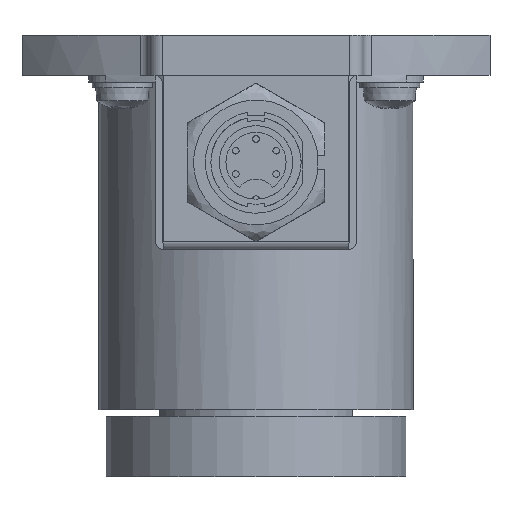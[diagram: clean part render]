
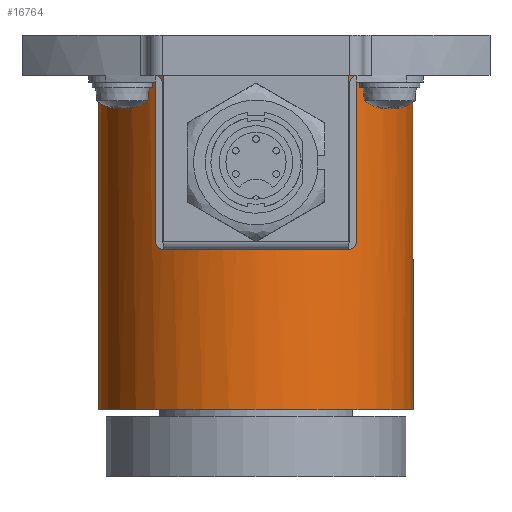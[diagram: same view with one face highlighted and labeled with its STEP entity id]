
A CAD part, left-side view. The second image highlights one B-rep face of the part: STEP entity #16764.
In plain terms, the highlighted cylindrical face has radius 23.5 mm (diameter 47 mm), a full revolution.
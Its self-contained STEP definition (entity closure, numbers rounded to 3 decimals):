
#10004=CARTESIAN_POINT('',(-23.415,2.,0.));
#10005=VERTEX_POINT('',#10004);
#10063=CARTESIAN_POINT('',(-23.415,2.,-1.));
#10064=VERTEX_POINT('',#10063);
#10065=CARTESIAN_POINT('',(-23.415,2.,-1.));
#10066=CARTESIAN_POINT('',(-23.407,2.092,-1.));
#10067=CARTESIAN_POINT('',(-23.398,2.193,-0.971));
#10068=CARTESIAN_POINT('',(-23.39,2.274,-0.918));
#10069=CARTESIAN_POINT('',(-23.383,2.345,-0.872));
#10070=CARTESIAN_POINT('',(-23.377,2.4,-0.811));
#10071=CARTESIAN_POINT('',(-23.373,2.441,-0.736));
#10072=CARTESIAN_POINT('',(-23.369,2.479,-0.665));
#10073=CARTESIAN_POINT('',(-23.367,2.499,-0.584));
#10074=CARTESIAN_POINT('',(-23.367,2.5,-0.507));
#10075=CARTESIAN_POINT('',(-23.367,2.501,-0.432));
#10076=CARTESIAN_POINT('',(-23.368,2.484,-0.352));
#10077=CARTESIAN_POINT('',(-23.372,2.449,-0.28));
#10078=CARTESIAN_POINT('',(-23.377,2.398,-0.175));
#10079=CARTESIAN_POINT('',(-23.386,2.314,-0.094));
#10080=CARTESIAN_POINT('',(-23.396,2.208,-0.045));
#10081=CARTESIAN_POINT('',(-23.402,2.142,-0.015));
#10082=CARTESIAN_POINT('',(-23.409,2.069,0.));
#10083=CARTESIAN_POINT('',(-23.415,2.,0.));
#10084=B_SPLINE_CURVE_WITH_KNOTS('',3,(#10065,#10066,#10067,#10068,#10069,#10070,#10071,#10072,#10073,#10074,#10075,#10076,#10077,#10078,#10079,#10080,#10081,#10082,#10083),.UNSPECIFIED.,.F.,.U.,(4,3,3,3,3,3,4),(0.226,0.254,0.278,0.301,0.324,0.357,0.377),.UNSPECIFIED.);
#10085=EDGE_CURVE('',#10064,#10005,#10084,.T.);
#10230=CARTESIAN_POINT('',(-23.415,-2.,0.));
#10231=VERTEX_POINT('',#10230);
#10307=CARTESIAN_POINT('',(-23.415,-2.,-1.));
#10308=VERTEX_POINT('',#10307);
#10315=CARTESIAN_POINT('',(-23.415,-2.,0.));
#10316=CARTESIAN_POINT('',(-23.406,-2.1,0.));
#10317=CARTESIAN_POINT('',(-23.396,-2.21,-0.034));
#10318=CARTESIAN_POINT('',(-23.388,-2.294,-0.096));
#10319=CARTESIAN_POINT('',(-23.382,-2.356,-0.14));
#10320=CARTESIAN_POINT('',(-23.377,-2.405,-0.196));
#10321=CARTESIAN_POINT('',(-23.373,-2.441,-0.264));
#10322=CARTESIAN_POINT('',(-23.369,-2.479,-0.335));
#10323=CARTESIAN_POINT('',(-23.367,-2.499,-0.418));
#10324=CARTESIAN_POINT('',(-23.367,-2.5,-0.494));
#10325=CARTESIAN_POINT('',(-23.367,-2.501,-0.565));
#10326=CARTESIAN_POINT('',(-23.368,-2.486,-0.641));
#10327=CARTESIAN_POINT('',(-23.372,-2.454,-0.709));
#10328=CARTESIAN_POINT('',(-23.375,-2.423,-0.776));
#10329=CARTESIAN_POINT('',(-23.379,-2.379,-0.834));
#10330=CARTESIAN_POINT('',(-23.385,-2.324,-0.88));
#10331=CARTESIAN_POINT('',(-23.393,-2.246,-0.947));
#10332=CARTESIAN_POINT('',(-23.403,-2.14,-0.991));
#10333=CARTESIAN_POINT('',(-23.411,-2.038,-0.999));
#10334=CARTESIAN_POINT('',(-23.413,-2.025,-1.));
#10335=CARTESIAN_POINT('',(-23.414,-2.012,-1.));
#10336=CARTESIAN_POINT('',(-23.415,-2.,-1.));
#10337=B_SPLINE_CURVE_WITH_KNOTS('',3,(#10315,#10316,#10317,#10318,#10319,#10320,#10321,#10322,#10323,#10324,#10325,#10326,#10327,#10328,#10329,#10330,#10331,#10332,#10333,#10334,#10335,#10336),.UNSPECIFIED.,.F.,.U.,(4,3,3,3,3,3,3,4),(0.075,0.106,0.127,0.15,0.172,0.193,0.223,0.226),.UNSPECIFIED.);
#10338=EDGE_CURVE('',#10231,#10308,#10337,.T.);
#16687=CARTESIAN_POINT('',(0.,0.,-25.0));
#16688=DIRECTION('',(0.,0.,-1.0));
#16689=DIRECTION('',(0.0,1.0,0.0));
#16690=AXIS2_PLACEMENT_3D('',#16687,#16688,#16689);
#16691=CYLINDRICAL_SURFACE('',#16690,23.5);
#16692=CARTESIAN_POINT('',(0.,23.5,-50.0));
#16693=VERTEX_POINT('',#16692);
#16694=CARTESIAN_POINT('',(0.,0.,-50.0));
#16695=DIRECTION('',(0.0,0.0,-1.0));
#16696=DIRECTION('',(0.0,1.0,0.0));
#16697=AXIS2_PLACEMENT_3D('',#16694,#16695,#16696);
#16698=CIRCLE('',#16697,23.5);
#16699=EDGE_CURVE('',#16693,#16693,#16698,.T.);
#16700=ORIENTED_EDGE('',*,*,#16699,.F.);
#16701=EDGE_LOOP('',(#16700));
#16702=FACE_OUTER_BOUND('',#16701,.T.);
#16703=ORIENTED_EDGE('',*,*,#10085,.T.);
#16704=CARTESIAN_POINT('',(0.,0.,0.0));
#16705=DIRECTION('',(0.0,0.0,1.0));
#16706=DIRECTION('',(0.0,1.0,0.0));
#16707=AXIS2_PLACEMENT_3D('',#16704,#16705,#16706);
#16708=CIRCLE('',#16707,23.5);
#16709=EDGE_CURVE('',#10231,#10005,#16708,.T.);
#16710=ORIENTED_EDGE('',*,*,#16709,.F.);
#16711=ORIENTED_EDGE('',*,*,#10338,.T.);
#16712=CARTESIAN_POINT('',(-23.415,-2.,-3.));
#16713=VERTEX_POINT('',#16712);
#16714=CARTESIAN_POINT('',(-23.415,-2.,-1.));
#16715=DIRECTION('',(0.0,0.0,-1.0));
#16716=VECTOR('',#16715,2.);
#16717=LINE('',#16714,#16716);
#16718=EDGE_CURVE('',#10308,#16713,#16717,.T.);
#16719=ORIENTED_EDGE('',*,*,#16718,.T.);
#16720=CARTESIAN_POINT('',(-23.415,2.,-3.));
#16721=VERTEX_POINT('',#16720);
#16722=CARTESIAN_POINT('',(-23.415,-2.,-3.));
#16723=CARTESIAN_POINT('',(-23.415,-2.,-3.283));
#16724=CARTESIAN_POINT('',(-23.421,-1.935,-3.587));
#16725=CARTESIAN_POINT('',(-23.43,-1.807,-3.858));
#16726=CARTESIAN_POINT('',(-23.438,-1.71,-4.062));
#16727=CARTESIAN_POINT('',(-23.447,-1.578,-4.247));
#16728=CARTESIAN_POINT('',(-23.457,-1.429,-4.399));
#16729=CARTESIAN_POINT('',(-23.463,-1.329,-4.501));
#16730=CARTESIAN_POINT('',(-23.469,-1.217,-4.594));
#16731=CARTESIAN_POINT('',(-23.475,-1.092,-4.676));
#16732=CARTESIAN_POINT('',(-23.486,-0.844,-4.838));
#16733=CARTESIAN_POINT('',(-23.495,-0.55,-4.945));
#16734=CARTESIAN_POINT('',(-23.499,-0.26,-4.983));
#16735=CARTESIAN_POINT('',(-23.501,-0.072,-5.008));
#16736=CARTESIAN_POINT('',(-23.5,0.11,-5.006));
#16737=CARTESIAN_POINT('',(-23.498,0.298,-4.978));
#16738=CARTESIAN_POINT('',(-23.495,0.565,-4.937));
#16739=CARTESIAN_POINT('',(-23.486,0.833,-4.839));
#16740=CARTESIAN_POINT('',(-23.476,1.065,-4.693));
#16741=CARTESIAN_POINT('',(-23.47,1.19,-4.614));
#16742=CARTESIAN_POINT('',(-23.464,1.305,-4.522));
#16743=CARTESIAN_POINT('',(-23.458,1.405,-4.423));
#16744=CARTESIAN_POINT('',(-23.452,1.507,-4.323));
#16745=CARTESIAN_POINT('',(-23.446,1.6,-4.209));
#16746=CARTESIAN_POINT('',(-23.44,1.681,-4.084));
#16747=CARTESIAN_POINT('',(-23.428,1.842,-3.834));
#16748=CARTESIAN_POINT('',(-23.419,1.948,-3.54));
#16749=CARTESIAN_POINT('',(-23.416,1.984,-3.25));
#16750=CARTESIAN_POINT('',(-23.415,1.995,-3.165));
#16751=CARTESIAN_POINT('',(-23.415,2.,-3.082));
#16752=CARTESIAN_POINT('',(-23.415,2.,-3.));
#16753=B_SPLINE_CURVE_WITH_KNOTS('',3,(#16722,#16723,#16724,#16725,#16726,#16727,#16728,#16729,#16730,#16731,#16732,#16733,#16734,#16735,#16736,#16737,#16738,#16739,#16740,#16741,#16742,#16743,#16744,#16745,#16746,#16747,#16748,#16749,#16750,#16751,#16752),.UNSPECIFIED.,.F.,.U.,(4,3,3,3,3,3,3,3,3,3,4),(-0.603,-0.518,-0.454,-0.412,-0.327,-0.272,-0.194,-0.152,-0.109,-0.025,0.0),.UNSPECIFIED.);
#16754=EDGE_CURVE('',#16713,#16721,#16753,.T.);
#16755=ORIENTED_EDGE('',*,*,#16754,.T.);
#16756=CARTESIAN_POINT('',(-23.415,2.,-3.));
#16757=DIRECTION('',(0.0,0.0,1.0));
#16758=VECTOR('',#16757,2.);
#16759=LINE('',#16756,#16758);
#16760=EDGE_CURVE('',#16721,#10064,#16759,.T.);
#16761=ORIENTED_EDGE('',*,*,#16760,.T.);
#16762=EDGE_LOOP('',(#16703,#16710,#16711,#16719,#16755,#16761));
#16763=FACE_BOUND('',#16762,.T.);
#16764=ADVANCED_FACE('',(#16702,#16763),#16691,.T.);
